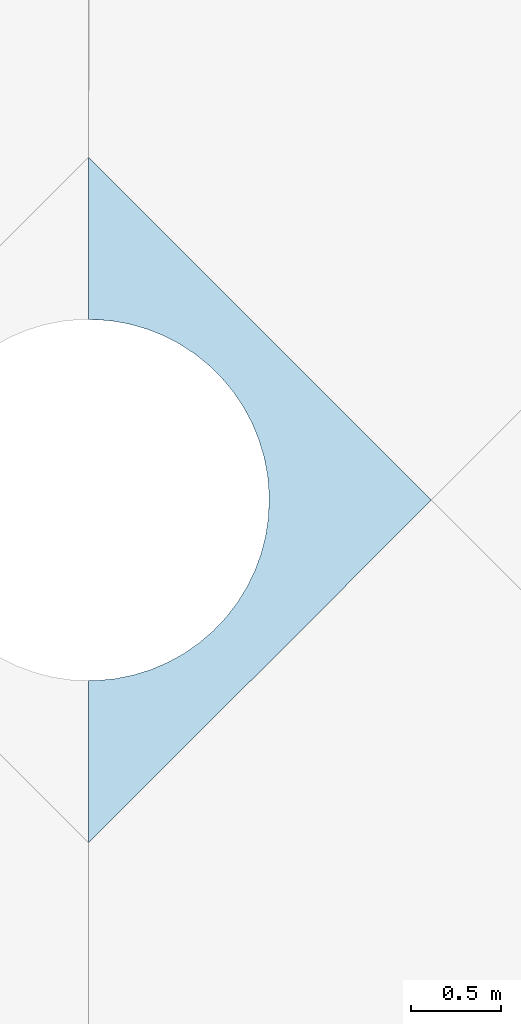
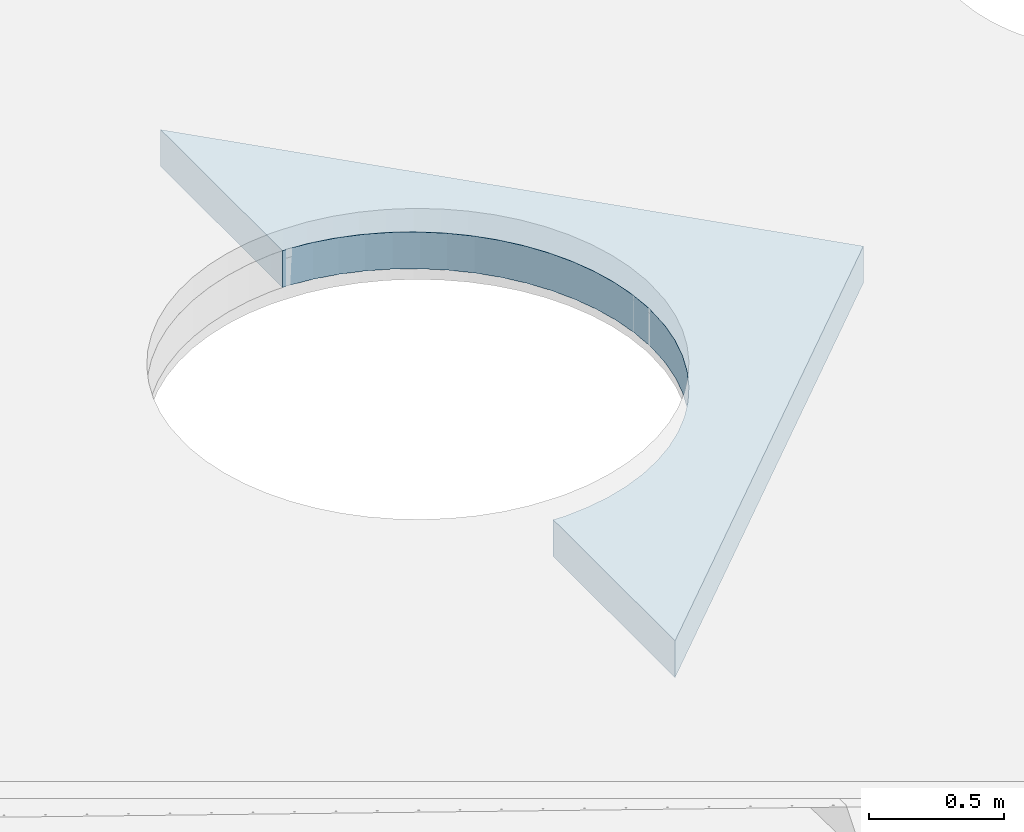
# One storey, part 4 of 10: 1 slab.
"""IFC4 building model written with IfcOpenShell, lengths in millimetres."""

from ifc_helpers import new_model, entity, si_unit, converted_unit, derived_unit, direction, frame, origin_with_axes, place, context, subcontext, project, spatial, polygons, material, constituent, constituent_set, type_object, element, save


model = new_model("IFC4")

# Units and contexts
model_context = context("Model", 3, precision=0.01, world=origin_with_axes(), true_north=direction((0.0, 1.0)))
body_context = subcontext(model_context, "Body", "Model", "MODEL_VIEW")
ifc_project = project(units=[si_unit("LENGTHUNIT", "METRE", prefix="MILLI"), si_unit("AREAUNIT", "SQUARE_METRE"), si_unit("VOLUMEUNIT", "CUBIC_METRE"), converted_unit("PLANEANGLEUNIT", "DEGREE", entity("IfcPlaneAngleMeasure", 0.0174532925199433), si_unit("PLANEANGLEUNIT", "RADIAN"), dimensions=[0, 0, 0, 0, 0, 0, 0]), converted_unit("TIMEUNIT", "Year", entity("IfcTimeMeasure", 31557600.0), si_unit("TIMEUNIT", "SECOND"), dimensions=[0, 0, 1, 0, 0, 0, 0]), si_unit("MASSUNIT", "GRAM", prefix="KILO"), si_unit("THERMODYNAMICTEMPERATUREUNIT", "DEGREE_CELSIUS"), si_unit("LUMINOUSINTENSITYUNIT", "LUMEN"), si_unit("ENERGYUNIT", "JOULE", prefix="MEGA"), derived_unit("THERMALCONDUCTANCEUNIT", [(si_unit("POWERUNIT", "WATT"), 1), (si_unit("LENGTHUNIT", "METRE"), -1), (si_unit("THERMODYNAMICTEMPERATUREUNIT", "KELVIN"), -1)]), derived_unit("SPECIFICHEATCAPACITYUNIT", [(si_unit("ENERGYUNIT", "JOULE"), 1), (si_unit("MASSUNIT", "GRAM", prefix="KILO"), -1), (si_unit("THERMODYNAMICTEMPERATUREUNIT", "KELVIN"), -1)]), derived_unit("MASSDENSITYUNIT", [(si_unit("MASSUNIT", "GRAM", prefix="KILO"), 1), (si_unit("VOLUMEUNIT", "CUBIC_METRE"), -1)])], contexts=[model_context])

# Site, building, storey
site_placement = place(None, origin_with_axes())
site = spatial("IfcSite", under=ifc_project, at=site_placement, Name="Exteriér", CompositionType="ELEMENT")
building_placement = place(site_placement, origin_with_axes())
building = spatial("IfcBuilding", under=site, at=building_placement, Name="Univerzitní lezecké centrum", CompositionType="ELEMENT")
storey_placement = place(building_placement, frame((0.0, 0.0, 9600.000000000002), z_axis=(0.0, 0.0, 1.0), x_axis=(1.0, 0.0, 0.0)))
storey = spatial("IfcBuildingStorey", under=building, at=storey_placement, Name="4.NP", CompositionType="ELEMENT", Elevation=9600.0)

# Slab
ifc_material_1 = material(Name="TPO fólie ochranná")
ifc_constituent_1 = constituent(ifc_material_1, Name="TPO fólie ochranná")
ifc_material_2 = material(Name="Geotextilie 200 g/m2")
ifc_constituent_2 = constituent(ifc_material_2, Name="Geotextilie 200 g/m2")
ifc_material_3 = material(Name="Hydroizolace - TPO fólie")
ifc_constituent_3 = constituent(ifc_material_3, Name="Hydroizolace - TPO fólie")
ifc_material_4 = material(Name="Tepelná izolace - polystyren EPS podlahy")
ifc_constituent_4 = constituent(ifc_material_4, Name="Tepelná izolace - polystyren EPS podlahy")
ifc_constituent_set = constituent_set(constituents=[ifc_constituent_1, ifc_constituent_2, ifc_constituent_3, ifc_constituent_4], Name="!Podlaha spádovaná - terasy - TI + HI vrstva")
slab_type = type_object("IfcSlabType", Name="!Podlaha spádovaná - terasy - TI + HI vrstva 166", PredefinedType="ROOF")
slab_placement = place(storey_placement, frame((4345.768483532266, -4329.896816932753, -300.0062110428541), z_axis=(0.0, 0.0, 1.0), x_axis=(0.002283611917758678, 0.9999973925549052, 0.0)))
element("IfcSlab", 1, at=slab_placement, inside=storey, type_object=slab_type, material=ifc_constituent_set, PredefinedType="ROOF", context=body_context, shape_type="Tessellation", body=[
    polygons([(885.5231735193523, 1897.973223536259, 203.9926611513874), (886.6028982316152, 1873.892460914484, 203.5110458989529), (879.2646134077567, 1772.729748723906, 201.4877916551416), (861.7295171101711, 1672.828471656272, 199.4897661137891), (834.1775431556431, 1575.213752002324, 197.5374717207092), (796.8914120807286, 1480.887248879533, 195.6509416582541), (750.2537300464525, 1390.81687985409, 193.849534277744), (694.7430627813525, 1305.92688879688, 192.1517344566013), (630.9290248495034, 1227.088361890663, 190.5749639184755), (559.4664346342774, 1155.110289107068, 189.1354024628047), (481.0885950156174, 1090.731262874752, 187.8478219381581), (396.5997686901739, 1034.611899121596, 186.7254346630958), (306.8669253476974, 987.328058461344, 185.7797578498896), (212.8108453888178, 949.3649370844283, 185.0204954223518), (115.396671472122, 921.1120879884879, 184.4554384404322), (15.62400484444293, 902.85942363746, 184.0903851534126), (-85.48335192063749, 894.794241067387, 183.9290815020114), (-136.1856262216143, 895.8967705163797, 183.951132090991), (-213.4688563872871, 899.2838274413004, 184.0188732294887), (-313.7625488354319, 914.4139304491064, 184.3214752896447), (-412.0109796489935, 939.6129503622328, 184.825455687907), (-507.2059869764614, 974.6223111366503, 185.5256429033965), (-598.3707412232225, 1019.082769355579, 186.4148520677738), (-684.5697686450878, 1072.538100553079, 187.4839586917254), (-764.9185505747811, 1134.439780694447, 188.7219922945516), (-838.5925997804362, 1204.15261477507, 190.1162489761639), (-904.8359208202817, 1280.961254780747, 191.6524217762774), (-962.9687675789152, 1364.077540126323, 193.3147474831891), (-1012.394618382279, 1452.648585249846, 195.0861683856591), (-1052.60629711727, 1545.765531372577, 196.9485073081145), (-1083.191177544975, 1642.472872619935, 198.8826541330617), (-1103.835417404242, 1741.778260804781, 200.8687618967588), (-1114.327178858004, 1842.662688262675, 202.8864504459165), (-1114.326293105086, 1893.471299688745, 203.9026226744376), (-2014.317471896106, 1891.445301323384, 203.8621027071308), (-1633.566199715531, 1512.198049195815, 196.2771576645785), (-1252.769484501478, 1132.996425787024, 188.6931251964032), (-871.927331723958, 753.8404365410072, 181.1100054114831), (-491.0397468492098, 374.7300869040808, 173.5277984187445), (-110.1067353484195, -4.334617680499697, 165.9465043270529), (1785.860000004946, 1899.999999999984, 204.0331966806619), (885.5249664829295, 1897.973227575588, 201.9922612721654), (886.6028982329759, 1873.932452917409, 201.5114457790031), (879.2596690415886, 1772.70157955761, 199.486828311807), (861.7295171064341, 1672.828471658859, 197.4893661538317), (834.1775431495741, 1575.213752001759, 195.5370717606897), (796.891412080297, 1480.887248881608, 193.6505416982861), (750.2537300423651, 1390.816879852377, 191.8491343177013), (694.7430627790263, 1305.926888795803, 190.1513344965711), (630.9290248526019, 1227.088361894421, 188.5745639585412), (559.4664346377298, 1155.11028910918, 187.1350025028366), (481.0885950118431, 1090.73126287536, 185.8474219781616), (396.5997686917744, 1034.611899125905, 184.7250347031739), (306.866925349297, 987.3280584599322, 183.7793578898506), (212.8108453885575, 949.3649370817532, 183.0200954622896), (115.3966714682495, 921.1120879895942, 182.4550384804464), (15.62400484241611, 902.8594236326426, 182.089985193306), (-85.48335191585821, 894.794241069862, 181.9286815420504), (-136.1856262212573, 895.8967705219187, 181.9507321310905), (-213.4688563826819, 899.2838274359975, 182.0184732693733), (-313.762548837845, 914.4139304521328, 182.3210753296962), (-412.0109796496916, 939.6129503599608, 182.8250557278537), (-507.2059869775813, 974.622311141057, 183.5252429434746), (-598.3707412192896, 1019.08276935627, 184.4144521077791), (-684.5697686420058, 1072.538100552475, 185.4835587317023), (-764.9185505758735, 1134.439780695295, 186.7215923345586), (-838.5925997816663, 1204.152614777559, 188.1158490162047), (-904.8359208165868, 1280.96125478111, 189.6520218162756), (-962.9687675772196, 1364.077540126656, 191.3143475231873), (-1012.39461837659, 1452.648585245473, 193.0857684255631), (-1052.606297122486, 1545.765531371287, 194.9481073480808), (-1083.191177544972, 1642.472872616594, 196.8822541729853), (-1103.835417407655, 1741.778260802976, 198.8683619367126), (-1114.327179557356, 1842.662694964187, 200.8860506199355), (-1114.32629380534, 1893.4712996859, 201.9022227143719), (-2014.317471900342, 1891.445301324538, 201.861702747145), (-1633.566199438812, 1512.198048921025, 194.2767576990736), (-1252.76948484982, 1132.996426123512, 186.692725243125), (-871.9273316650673, 753.840436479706, 179.1096054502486), (-491.0397467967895, 374.7300868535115, 171.5273984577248), (-110.1067353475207, -4.334617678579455, 163.9461043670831), (1785.860000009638, 1900.000000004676, 202.0327967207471)], [[[1, 2, 3, 4, 5, 6, 7, 8, 9, 10, 11, 12, 13, 14, 15, 16, 17, 18, 19, 20, 21, 22, 23, 24, 25, 26, 27, 28, 29, 30, 31, 32, 33, 34, 35, 36, 37, 38, 39, 40, 41]], [[1, 42, 43, 2]], [[2, 43, 44, 3]], [[3, 44, 45, 4]], [[4, 45, 46, 5]], [[5, 46, 47, 6]], [[6, 47, 48, 7]], [[7, 48, 49, 8]], [[8, 49, 50, 9]], [[9, 50, 51, 10]], [[10, 51, 52, 11]], [[11, 52, 53, 12]], [[12, 53, 54, 13]], [[13, 54, 55, 14]], [[14, 55, 56, 15]], [[15, 56, 57, 16]], [[16, 57, 58, 17]], [[17, 58, 59, 18]], [[18, 59, 60, 19]], [[19, 60, 61, 20]], [[20, 61, 62, 21]], [[21, 62, 63, 22]], [[22, 63, 64, 23]], [[23, 64, 65, 24]], [[24, 65, 66, 25]], [[25, 66, 67, 26]], [[26, 67, 68, 27]], [[27, 68, 69, 28]], [[28, 69, 70, 29]], [[29, 70, 71, 30]], [[30, 71, 72, 31]], [[31, 72, 73, 32]], [[32, 73, 74, 33]], [[33, 74, 75, 34]], [[34, 75, 76, 35]], [[35, 76, 77, 36]], [[36, 77, 78, 37]], [[37, 78, 79, 38]], [[38, 79, 80, 39]], [[39, 80, 81, 40]], [[40, 81, 82, 41]], [[41, 82, 42, 1]], [[42, 82, 81, 80, 79, 78, 77, 76, 75, 74, 73, 72, 71, 70, 69, 68, 67, 66, 65, 64, 63, 62, 61, 60, 59, 58, 57, 56, 55, 54, 53, 52, 51, 50, 49, 48, 47, 46, 45, 44, 43]]], closed=True),
    polygons([(1785.860000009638, 1900.000000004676, 202.0327967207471), (1785.86000001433, 1900.000000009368, 200.0323967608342), (885.5267594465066, 1897.973231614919, 199.9918613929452), (885.5249664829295, 1897.973227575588, 201.9922612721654), (-110.1067353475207, -4.334617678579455, 163.9461043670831), (-110.1067353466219, -4.334617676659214, 161.9457044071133), (-491.0397467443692, 374.7300868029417, 169.5269984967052), (-871.9273316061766, 753.8404364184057, 177.109205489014), (-1252.769485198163, 1132.996426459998, 184.6923252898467), (-1633.566199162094, 1512.198048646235, 192.2763577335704), (-2014.317471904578, 1891.445301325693, 199.8613027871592), (-1114.326294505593, 1893.471299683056, 199.9018227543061), (-1114.327180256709, 1842.6627016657, 198.8856507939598), (-1103.835417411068, 1741.778260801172, 196.8679619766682), (-1083.191177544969, 1642.472872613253, 194.8818542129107), (-1052.606297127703, 1545.765531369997, 192.9477073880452), (-1012.394618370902, 1452.6485852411, 191.0853684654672), (-962.9687675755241, 1364.07754012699, 189.3139475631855), (-904.835920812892, 1280.961254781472, 187.6516218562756), (-838.5925997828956, 1204.152614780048, 186.1154490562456), (-764.9185505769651, 1134.439780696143, 184.7211923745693), (-684.5697686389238, 1072.53810055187, 183.4831587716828), (-598.3707412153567, 1019.082769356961, 182.4140521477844), (-507.2059869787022, 974.6223111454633, 181.5248429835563), (-412.0109796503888, 939.6129503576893, 180.8246557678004), (-313.7625488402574, 914.4139304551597, 180.3206753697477), (-213.4688563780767, 899.2838274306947, 180.0180733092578), (-136.1856262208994, 895.8967705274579, 179.9503321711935), (-85.48335191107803, 894.7942410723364, 179.9282815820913), (15.62400484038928, 902.8594236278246, 180.0895852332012), (115.3966714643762, 921.1120879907, 180.4546385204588), (212.8108453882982, 949.3649370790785, 181.0196955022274), (306.8669253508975, 987.32805845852, 181.778957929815), (396.5997686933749, 1034.611899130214, 182.7246347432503), (481.0885950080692, 1090.731262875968, 183.8470220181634), (559.4664346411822, 1155.110289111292, 185.1346025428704), (630.9290248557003, 1227.088361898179, 186.5741639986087), (694.7430627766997, 1305.926888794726, 188.1509345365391), (750.2537300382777, 1390.816879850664, 189.8487343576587), (796.891412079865, 1480.887248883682, 191.6501417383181), (834.1775431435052, 1575.213752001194, 193.5366718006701), (861.7295171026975, 1672.828471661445, 195.4889661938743), (879.2547246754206, 1772.673410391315, 197.4858649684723), (886.6028982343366, 1873.972444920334, 199.5118456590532), (886.6028982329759, 1873.932452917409, 201.5114457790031), (879.2596690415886, 1772.70157955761, 199.486828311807), (861.7295171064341, 1672.828471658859, 197.4893661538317), (834.1775431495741, 1575.213752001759, 195.5370717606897), (796.891412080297, 1480.887248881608, 193.6505416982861), (750.2537300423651, 1390.816879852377, 191.8491343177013), (694.7430627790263, 1305.926888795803, 190.1513344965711), (630.9290248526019, 1227.088361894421, 188.5745639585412), (559.4664346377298, 1155.11028910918, 187.1350025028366), (481.0885950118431, 1090.73126287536, 185.8474219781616), (396.5997686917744, 1034.611899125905, 184.7250347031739), (306.866925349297, 987.3280584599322, 183.7793578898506), (212.8108453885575, 949.3649370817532, 183.0200954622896), (115.3966714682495, 921.1120879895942, 182.4550384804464), (15.62400484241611, 902.8594236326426, 182.089985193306), (-85.48335191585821, 894.794241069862, 181.9286815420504), (-136.1856262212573, 895.8967705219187, 181.9507321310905), (-213.4688563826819, 899.2838274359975, 182.0184732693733), (-313.762548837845, 914.4139304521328, 182.3210753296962), (-412.0109796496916, 939.6129503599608, 182.8250557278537), (-507.2059869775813, 974.622311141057, 183.5252429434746), (-598.3707412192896, 1019.08276935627, 184.4144521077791), (-684.5697686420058, 1072.538100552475, 185.4835587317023), (-764.9185505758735, 1134.439780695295, 186.7215923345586), (-838.5925997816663, 1204.152614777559, 188.1158490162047), (-904.8359208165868, 1280.96125478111, 189.6520218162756), (-962.9687675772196, 1364.077540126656, 191.3143475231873), (-1012.39461837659, 1452.648585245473, 193.0857684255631), (-1052.606297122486, 1545.765531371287, 194.9481073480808), (-1083.191177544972, 1642.472872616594, 196.8822541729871), (-1103.835417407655, 1741.778260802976, 198.8683619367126), (-1114.327179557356, 1842.662694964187, 200.8860506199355), (-1114.32629380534, 1893.4712996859, 201.9022227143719), (-2014.317471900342, 1891.445301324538, 201.861702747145), (-1633.566199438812, 1512.198048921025, 194.2767576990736), (-1252.76948484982, 1132.996426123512, 186.692725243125), (-871.9273316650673, 753.840436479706, 179.1096054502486), (-491.0397467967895, 374.7300868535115, 171.5273984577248)], [[[1, 2, 3, 4]], [[5, 6, 2, 1]], [[3, 2, 6, 7, 8, 9, 10, 11, 12, 13, 14, 15, 16, 17, 18, 19, 20, 21, 22, 23, 24, 25, 26, 27, 28, 29, 30, 31, 32, 33, 34, 35, 36, 37, 38, 39, 40, 41, 42, 43, 44]], [[4, 3, 44, 45]], [[4, 45, 46, 47, 48, 49, 50, 51, 52, 53, 54, 55, 56, 57, 58, 59, 60, 61, 62, 63, 64, 65, 66, 67, 68, 69, 70, 71, 72, 73, 74, 75, 76, 77, 78, 79, 80, 81, 82, 5, 1]], [[82, 7, 6, 5]], [[81, 8, 7, 82]], [[80, 9, 8, 81]], [[79, 10, 9, 80]], [[78, 11, 10, 79]], [[77, 12, 11, 78]], [[76, 13, 12, 77]], [[75, 14, 13, 76]], [[74, 15, 14, 75]], [[73, 16, 15, 74]], [[72, 17, 16, 73]], [[71, 18, 17, 72]], [[70, 19, 18, 71]], [[69, 20, 19, 70]], [[68, 21, 20, 69]], [[67, 22, 21, 68]], [[66, 23, 22, 67]], [[65, 24, 23, 66]], [[64, 25, 24, 65]], [[63, 26, 25, 64]], [[62, 27, 26, 63]], [[61, 28, 27, 62]], [[60, 29, 28, 61]], [[59, 30, 29, 60]], [[58, 31, 30, 59]], [[57, 32, 31, 58]], [[56, 33, 32, 57]], [[55, 34, 33, 56]], [[54, 35, 34, 55]], [[53, 36, 35, 54]], [[52, 37, 36, 53]], [[51, 38, 37, 52]], [[50, 39, 38, 51]], [[49, 40, 39, 50]], [[48, 41, 40, 49]], [[47, 42, 41, 48]], [[46, 43, 42, 47]], [[45, 44, 43, 46]]], closed=True),
    polygons([(1785.86000001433, 1900.000000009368, 200.0323967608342), (1785.860000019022, 1900.00000001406, 198.0319968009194), (885.5285524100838, 1897.973235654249, 197.9914615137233), (885.5267594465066, 1897.973231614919, 199.9918613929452), (-110.1067353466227, -4.334617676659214, 161.9457044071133), (-110.1067353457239, -4.334617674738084, 159.9453044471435), (-491.039746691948, 374.730086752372, 167.5265985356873), (-871.9273315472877, 753.840436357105, 175.1088055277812), (-1252.769485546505, 1132.996426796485, 182.6919253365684), (-1633.566198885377, 1512.198048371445, 190.2759577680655), (-2014.317471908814, 1891.445301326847, 197.8609028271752), (-1114.326295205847, 1893.471299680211, 197.901422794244), (-1114.32718095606, 1842.662708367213, 196.8852509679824), (-1103.835417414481, 1741.778260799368, 194.8675620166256), (-1083.191177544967, 1642.472872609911, 192.8814542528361), (-1052.606297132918, 1545.765531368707, 190.9473074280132), (-1012.394618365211, 1452.648585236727, 189.084968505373), (-962.9687675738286, 1364.077540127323, 187.3135476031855), (-904.8359208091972, 1280.961254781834, 185.6512218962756), (-838.5925997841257, 1204.152614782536, 184.1150490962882), (-764.9185505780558, 1134.439780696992, 182.7207924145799), (-684.5697686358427, 1072.538100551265, 181.4827588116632), (-598.370741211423, 1019.082769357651, 180.4136521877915), (-507.2059869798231, 974.6223111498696, 179.5244430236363), (-412.010979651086, 939.6129503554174, 178.8242558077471), (-313.7625488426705, 914.4139304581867, 178.320275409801), (-213.4688563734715, 899.2838274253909, 178.0176733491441), (-136.1856262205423, 895.8967705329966, 177.9499322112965), (-85.48335190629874, 894.7942410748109, 177.9278816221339), (15.62400483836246, 902.8594236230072, 178.0891852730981), (115.3966714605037, 921.1120879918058, 178.4542385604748), (212.8108453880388, 949.3649370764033, 179.0192955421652), (306.8669253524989, 987.3280584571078, 179.7785579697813), (396.599768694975, 1034.611899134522, 180.7242347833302), (481.0885950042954, 1090.731262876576, 181.8466220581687), (559.4664346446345, 1155.110289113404, 183.1342025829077), (630.9290248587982, 1227.088361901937, 184.5737640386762), (694.7430627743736, 1305.92688879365, 186.1505345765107), (750.2537300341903, 1390.816879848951, 187.8483343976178), (796.8914120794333, 1480.887248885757, 189.6497417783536), (834.1775431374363, 1575.213752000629, 191.5362718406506), (861.729517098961, 1672.828471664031, 193.4885662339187), (879.2497803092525, 1772.645241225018, 195.4849016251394), (886.6028982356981, 1874.012436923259, 197.5122455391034), (886.602898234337, 1873.972444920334, 199.511845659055), (879.2547246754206, 1772.673410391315, 197.4858649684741), (861.7295171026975, 1672.828471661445, 195.4889661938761), (834.1775431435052, 1575.213752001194, 193.5366718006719), (796.8914120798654, 1480.887248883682, 191.6501417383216), (750.2537300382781, 1390.816879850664, 189.8487343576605), (694.7430627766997, 1305.926888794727, 188.1509345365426), (630.9290248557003, 1227.088361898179, 186.5741639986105), (559.4664346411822, 1155.110289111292, 185.1346025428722), (481.0885950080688, 1090.731262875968, 183.8470220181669), (396.5997686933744, 1034.611899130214, 182.7246347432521), (306.8669253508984, 987.32805845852, 181.778957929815), (212.8108453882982, 949.364937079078, 181.0196955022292), (115.3966714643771, 921.1120879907, 180.4546385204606), (15.62400484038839, 902.8594236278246, 180.089585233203), (-85.48335191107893, 894.7942410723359, 179.9282815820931), (-136.1856262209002, 895.8967705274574, 179.9503321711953), (-213.4688563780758, 899.2838274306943, 180.0180733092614), (-313.7625488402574, 914.4139304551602, 180.3206753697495), (-412.0109796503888, 939.6129503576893, 180.8246557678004), (-507.2059869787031, 974.6223111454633, 181.5248429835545), (-598.3707412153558, 1019.08276935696, 182.4140521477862), (-684.5697686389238, 1072.53810055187, 183.4831587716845), (-764.9185505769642, 1134.439780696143, 184.7211923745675), (-838.5925997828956, 1204.152614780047, 186.1154490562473), (-904.835920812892, 1280.961254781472, 187.6516218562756), (-962.9687675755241, 1364.07754012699, 189.3139475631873), (-1012.394618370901, 1452.6485852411, 191.085368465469), (-1052.606297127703, 1545.765531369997, 192.947707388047), (-1083.191177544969, 1642.472872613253, 194.8818542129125), (-1103.835417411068, 1741.778260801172, 196.86796197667), (-1114.327180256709, 1842.662701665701, 198.8856507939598), (-1114.326294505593, 1893.471299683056, 199.9018227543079), (-2014.317471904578, 1891.445301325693, 199.861302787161), (-1633.566199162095, 1512.198048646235, 192.2763577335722), (-1252.769485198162, 1132.996426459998, 184.6923252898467), (-871.9273316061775, 753.8404364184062, 177.1092054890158), (-491.0397467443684, 374.7300868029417, 169.5269984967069)], [[[1, 2, 3, 4]], [[5, 6, 2, 1]], [[3, 2, 6, 7, 8, 9, 10, 11, 12, 13, 14, 15, 16, 17, 18, 19, 20, 21, 22, 23, 24, 25, 26, 27, 28, 29, 30, 31, 32, 33, 34, 35, 36, 37, 38, 39, 40, 41, 42, 43, 44]], [[4, 3, 44, 45]], [[4, 45, 46, 47, 48, 49, 50, 51, 52, 53, 54, 55, 56, 57, 58, 59, 60, 61, 62, 63, 64, 65, 66, 67, 68, 69, 70, 71, 72, 73, 74, 75, 76, 77, 78, 79, 80, 81, 82, 5, 1]], [[82, 7, 6, 5]], [[81, 8, 7, 82]], [[80, 9, 8, 81]], [[79, 10, 9, 80]], [[78, 11, 10, 79]], [[77, 12, 11, 78]], [[76, 13, 12, 77]], [[75, 14, 13, 76]], [[74, 15, 14, 75]], [[73, 16, 15, 74]], [[72, 17, 16, 73]], [[71, 18, 17, 72]], [[70, 19, 18, 71]], [[69, 20, 19, 70]], [[68, 21, 20, 69]], [[67, 22, 21, 68]], [[66, 23, 22, 67]], [[65, 24, 23, 66]], [[64, 25, 24, 65]], [[63, 26, 25, 64]], [[62, 27, 26, 63]], [[61, 28, 27, 62]], [[60, 29, 28, 61]], [[59, 30, 29, 60]], [[58, 31, 30, 59]], [[57, 32, 31, 58]], [[56, 33, 32, 57]], [[55, 34, 33, 56]], [[54, 35, 34, 55]], [[53, 36, 35, 54]], [[52, 37, 36, 53]], [[51, 38, 37, 52]], [[50, 39, 38, 51]], [[49, 40, 39, 50]], [[48, 41, 40, 49]], [[47, 42, 41, 48]], [[46, 43, 42, 47]], [[45, 44, 43, 46]]], closed=True),
    polygons([(1785.860000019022, 1900.00000001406, 198.0319968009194), (1785.860000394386, 1900.000000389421, 37.99999980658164), (885.6719894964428, 1897.973558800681, 37.95947097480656), (885.5285524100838, 1897.97323565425, 197.9914615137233), (-110.1067353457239, -4.334617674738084, 159.9453044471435), (-110.1067352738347, -4.334617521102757, -0.08669255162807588), (-491.0397424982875, 374.7300827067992, 7.494601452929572), (-871.9273268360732, 753.8404314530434, 15.07680842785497), (-1252.769513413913, 1132.996453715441, 22.65992887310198), (-1633.566176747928, 1512.198026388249, 30.24396032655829), (-2014.317472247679, 1891.445301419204, 37.82890582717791), (-1114.326351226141, 1893.471299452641, 37.86942578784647), (-1114.327236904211, 1842.663244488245, 36.85326468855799), (-1103.835417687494, 1741.778260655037, 34.83556501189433), (-1083.191177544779, 1642.472872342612, 32.84945724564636), (-1052.606297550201, 1545.76553126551, 30.91531042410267), (-1012.394617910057, 1452.648584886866, 29.0529714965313), (-962.9687674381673, 1364.07754015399, 27.28155060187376), (-904.83592051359, 1280.96125481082, 25.61922489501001), (-838.5925998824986, 1204.152614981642, 24.08305209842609), (-764.9185506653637, 1134.439780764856, 22.68879541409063), (-684.5697683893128, 1072.538100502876, 21.45076180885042), (-598.3707408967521, 1019.082769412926, 20.38165518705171), (-507.2059870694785, 974.6223115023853, 19.49244602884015), (-412.0109797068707, 939.612950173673, 18.7922588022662), (-313.7625490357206, 914.4139307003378, 18.28827841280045), (-213.4688560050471, 899.283827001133, 17.98567633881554), (-136.1856261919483, 895.8967709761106, 17.91793521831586), (-85.48335152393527, 894.794241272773, 17.89588462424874), (15.62400467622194, 902.8594232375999, 18.05718826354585), (115.3966711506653, 921.1120880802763, 18.4222415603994), (212.8108453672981, 949.3649368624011, 18.98729853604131), (306.8669254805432, 987.3280583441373, 19.74656096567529), (396.599768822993, 1034.61189947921, 20.69223778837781), (481.0885947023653, 1090.731262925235, 21.81462505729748), (559.4664349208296, 1155.110289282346, 23.10220558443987), (630.9290251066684, 1227.088362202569, 24.5417670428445), (694.7430625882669, 1305.926888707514, 26.11853757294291), (750.2537297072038, 1390.816879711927, 27.81633739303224), (796.891412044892, 1480.887249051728, 29.61774477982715), (834.1775426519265, 1575.213751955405, 31.50427483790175), (861.7295168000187, 1672.828471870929, 33.45656923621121), (878.8542310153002, 1770.391707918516, 35.40783395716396), (886.602898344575, 1877.211797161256, 37.54423574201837), (886.6028982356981, 1874.012436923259, 197.5122455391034), (879.2497803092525, 1772.645241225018, 195.4849016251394), (861.729517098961, 1672.828471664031, 193.4885662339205), (834.1775431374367, 1575.213752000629, 191.5362718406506), (796.8914120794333, 1480.887248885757, 189.6497417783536), (750.2537300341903, 1390.816879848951, 187.8483343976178), (694.7430627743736, 1305.92688879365, 186.1505345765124), (630.9290248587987, 1227.088361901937, 184.5737640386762), (559.4664346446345, 1155.110289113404, 183.1342025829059), (481.0885950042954, 1090.731262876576, 181.8466220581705), (396.599768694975, 1034.611899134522, 180.7242347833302), (306.8669253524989, 987.3280584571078, 179.7785579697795), (212.8108453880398, 949.3649370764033, 179.019295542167), (115.3966714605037, 921.1120879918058, 178.4542385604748), (15.62400483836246, 902.8594236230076, 178.0891852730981), (-85.48335190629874, 894.7942410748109, 177.9278816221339), (-136.1856262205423, 895.8967705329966, 177.9499322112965), (-213.4688563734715, 899.2838274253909, 178.0176733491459), (-313.7625488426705, 914.4139304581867, 178.3202754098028), (-412.010979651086, 939.6129503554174, 178.8242558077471), (-507.2059869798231, 974.6223111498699, 179.5244430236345), (-598.370741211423, 1019.082769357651, 180.4136521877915), (-684.5697686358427, 1072.538100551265, 181.4827588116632), (-764.9185505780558, 1134.439780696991, 182.7207924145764), (-838.5925997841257, 1204.152614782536, 184.1150490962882), (-904.8359208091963, 1280.961254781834, 185.6512218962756), (-962.9687675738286, 1364.077540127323, 187.3135476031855), (-1012.394618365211, 1452.648585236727, 189.084968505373), (-1052.606297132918, 1545.765531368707, 190.9473074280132), (-1083.191177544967, 1642.472872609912, 192.8814542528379), (-1103.835417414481, 1741.778260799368, 194.8675620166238), (-1114.327180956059, 1842.662708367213, 196.8852509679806), (-1114.326295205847, 1893.471299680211, 197.9014227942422), (-2014.317471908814, 1891.445301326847, 197.8609028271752), (-1633.566198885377, 1512.198048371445, 190.2759577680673), (-1252.769485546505, 1132.996426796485, 182.6919253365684), (-871.9273315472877, 753.840436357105, 175.1088055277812), (-491.039746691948, 374.730086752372, 167.5265985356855)], [[[1, 2, 3, 4]], [[5, 6, 2, 1]], [[2, 6, 7, 8, 9, 10, 11, 12, 13, 14, 15, 16, 17, 18, 19, 20, 21, 22, 23, 24, 25, 26, 27, 28, 29, 30, 31, 32, 33, 34, 35, 36, 37, 38, 39, 40, 41, 42, 43, 44, 3]], [[4, 3, 44, 45]], [[4, 45, 46, 47, 48, 49, 50, 51, 52, 53, 54, 55, 56, 57, 58, 59, 60, 61, 62, 63, 64, 65, 66, 67, 68, 69, 70, 71, 72, 73, 74, 75, 76, 77, 78, 79, 80, 81, 82, 5, 1]], [[82, 7, 6, 5]], [[81, 8, 7, 82]], [[80, 9, 8, 81]], [[79, 10, 9, 80]], [[78, 11, 10, 79]], [[77, 12, 11, 78]], [[76, 13, 12, 77]], [[75, 14, 13, 76]], [[74, 15, 14, 75]], [[73, 16, 15, 74]], [[72, 17, 16, 73]], [[71, 18, 17, 72]], [[70, 19, 18, 71]], [[69, 20, 19, 70]], [[68, 21, 20, 69]], [[67, 22, 21, 68]], [[66, 23, 22, 67]], [[65, 24, 23, 66]], [[64, 25, 24, 65]], [[63, 26, 25, 64]], [[62, 27, 26, 63]], [[61, 28, 27, 62]], [[60, 29, 28, 61]], [[59, 30, 29, 60]], [[58, 31, 30, 59]], [[57, 32, 31, 58]], [[56, 33, 32, 57]], [[55, 34, 33, 56]], [[54, 35, 34, 55]], [[53, 36, 35, 54]], [[52, 37, 36, 53]], [[51, 38, 37, 52]], [[50, 39, 38, 51]], [[49, 40, 39, 50]], [[48, 41, 40, 49]], [[47, 42, 41, 48]], [[46, 43, 42, 47]], [[45, 44, 43, 46]]], closed=True),
])

save(model, "model.ifc")
